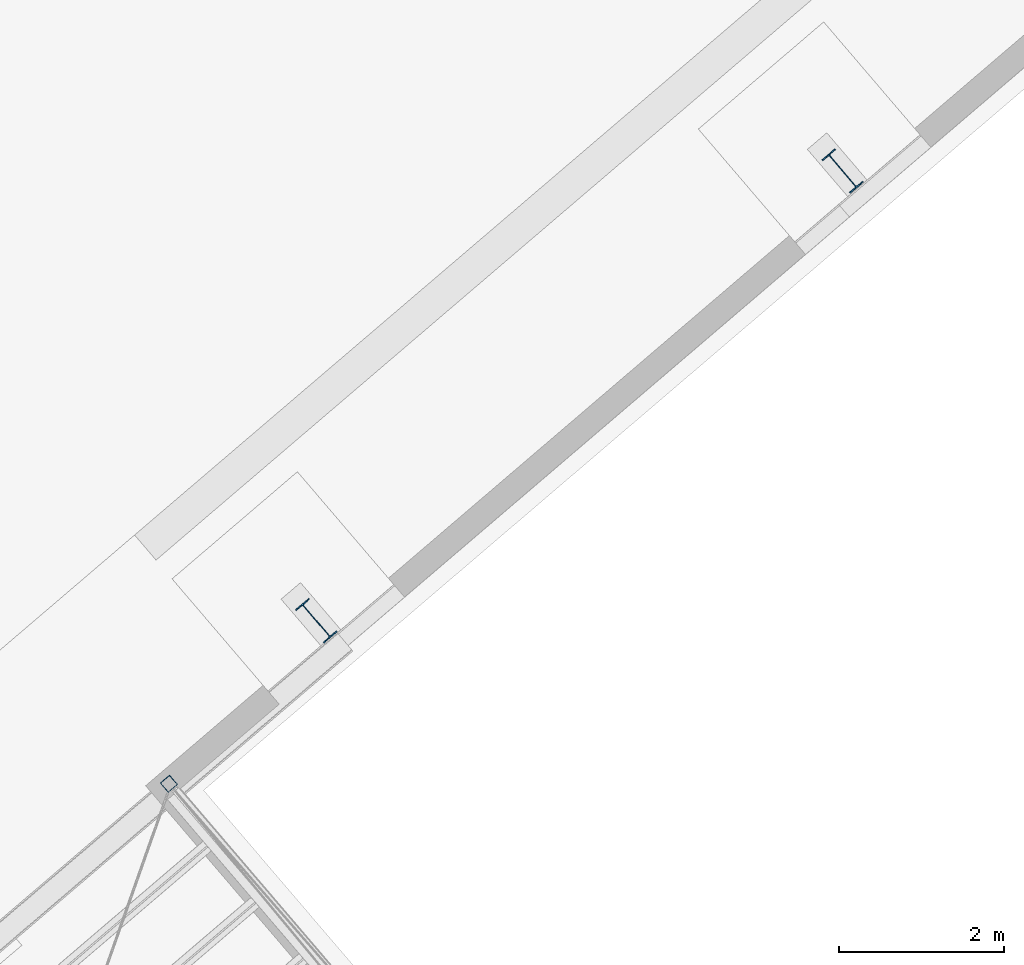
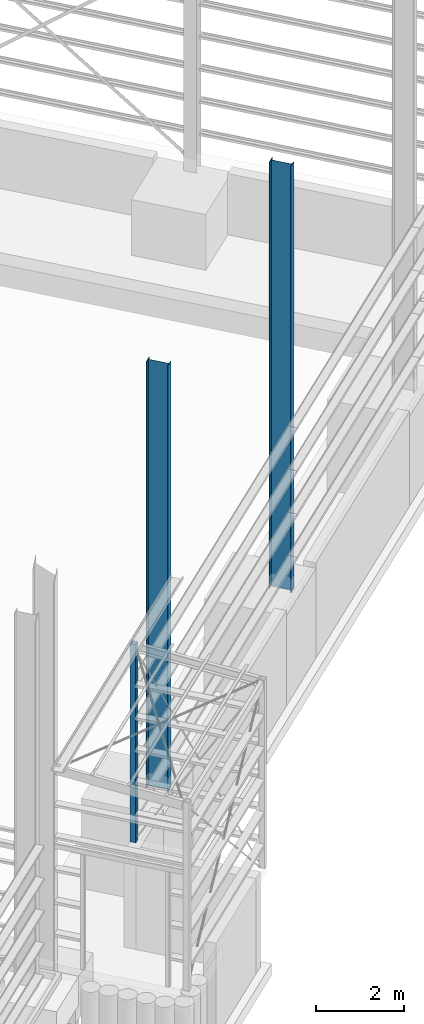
# One storey, part 7 of 41: 3 columns.
"""IFC2X3 building model written with IfcOpenShell, lengths in millimetres."""

import ifcopenshell
import ifcopenshell.guid

model = None  # the IFC model being written
_history = None  # IfcOwnerHistory: only IFC2X3 demands one
_inside = {}  # id of a spatial element -> (the spatial element, [elements in it])
_under = {}  # id of a project, library or spatial element -> (it, [spatial elements below it])
_declared = {}  # id of a project -> (the project, [libraries it declares])
_typed = {}  # id of a type object -> (the type object, [elements of that type])
_made_of = {}  # id of a material, layer set ... -> (it, [elements and type objects made of it])


def new_model(schema):
    """Start an empty IFC model of exactly this schema.

    Asked for "IFC4X3", IfcOpenShell would pick the latest addendum, in which some entities
    have other attributes; the version numbers below select the first issue.
    IFC2X3 requires an IfcOwnerHistory on every rooted entity: one is made here for all.
    """
    global model, _history
    if schema == "IFC4X3":
        model = ifcopenshell.file(schema_version=(4, 3, 0, 0))
    else:
        model = ifcopenshell.file(schema=schema)
    _inside.clear()
    _under.clear()
    _declared.clear()
    _typed.clear()
    _made_of.clear()
    _history = None
    if model.schema == "IFC2X3":
        org = make("IfcOrganization", Name="unknown")
        user = make(
            "IfcPersonAndOrganization",
            ThePerson=make("IfcPerson", FamilyName="unknown"),
            TheOrganization=org,
        )
        app = make(
            "IfcApplication",
            ApplicationDeveloper=org,
            Version="unknown",
            ApplicationFullName="unknown",
            ApplicationIdentifier="unknown",
        )
        _history = make(
            "IfcOwnerHistory",
            OwningUser=user,
            OwningApplication=app,
            ChangeAction="ADDED",
            CreationDate=0,
        )
    return model


def make(cls, **values):
    """One entity of the class cls with the attributes given. An attribute that is None is left unset."""
    return model.create_entity(
        cls, **{name: value for name, value in values.items() if value is not None}
    )


def entity(cls, *values):
    """Any entity or typed value of the class cls, its attributes in the order of the schema. None: left unset."""
    e = model.create_entity(cls)
    for i, value in enumerate(values):
        if value is not None:
            e[i] = value
    return e


def rooted(cls, **values):
    """An entity with a GlobalId (a new one), such as an element, a storey or a relation."""
    return make(cls, GlobalId=ifcopenshell.guid.new(), OwnerHistory=_history, **values)


def si_unit(unit_type, name, prefix=None):
    """IfcSIUnit, for example si_unit("LENGTHUNIT", "METRE", prefix="MILLI")."""
    return make("IfcSIUnit", UnitType=unit_type, Prefix=prefix, Name=name)


def converted_unit(unit_type, name, factor, base, dimensions=None, offset=None):
    """IfcConversionBasedUnit, such as the inch: factor (a typed value) times the base unit."""
    return make(
        "IfcConversionBasedUnit"
        if offset is None
        else "IfcConversionBasedUnitWithOffset",
        ConversionOffset=offset,
        Dimensions=None
        if dimensions is None
        else entity("IfcDimensionalExponents", *dimensions),
        UnitType=unit_type,
        Name=name,
        ConversionFactor=make(
            "IfcMeasureWithUnit", ValueComponent=factor, UnitComponent=base
        ),
    )


def derived_unit(unit_type, elements):
    """IfcDerivedUnit: a product of units, each with its exponent."""
    return make(
        "IfcDerivedUnit",
        Elements=[
            make("IfcDerivedUnitElement", Unit=unit, Exponent=power)
            for unit, power in elements
        ],
        UnitType=unit_type,
    )


def assignment(units):
    """IfcUnitAssignment: the units of a project."""
    return None if units is None else make("IfcUnitAssignment", Units=units)


def point(xyz):
    """IfcCartesianPoint."""
    return None if xyz is None else make("IfcCartesianPoint", Coordinates=xyz)


def direction(xyz):
    """IfcDirection."""
    return None if xyz is None else make("IfcDirection", DirectionRatios=xyz)


def frame(location, z_axis=None, x_axis=None):
    """IfcAxis2Placement3D, a coordinate frame: its origin and axes. An axis left out is left unset."""
    return make(
        "IfcAxis2Placement3D",
        Location=point(location),
        Axis=direction(z_axis),
        RefDirection=direction(x_axis),
    )


def frame_2d(location, x_axis=None):
    """IfcAxis2Placement2D, a coordinate frame in the plane: its origin and x axis."""
    return make(
        "IfcAxis2Placement2D", Location=point(location), RefDirection=direction(x_axis)
    )


def origin():
    """The frame at (0, 0, 0) with its axes left unset."""
    return frame((0.0, 0.0, 0.0))


def origin_2d():
    """The frame at (0, 0) in the plane with its x axis left unset."""
    return frame_2d((0.0, 0.0))


def place(relative_to, where):
    """IfcLocalPlacement: puts the frame where relative to a parent placement (None: the world)."""
    return make(
        "IfcLocalPlacement", PlacementRelTo=relative_to, RelativePlacement=where
    )


def context(
    kind, dimensions, precision=None, world=None, true_north=None, identifier=None
):
    """IfcGeometricRepresentationContext, for example the 3D "Model" context."""
    return make(
        "IfcGeometricRepresentationContext",
        ContextIdentifier=identifier,
        ContextType=kind,
        CoordinateSpaceDimension=dimensions,
        Precision=precision,
        WorldCoordinateSystem=world,
        TrueNorth=true_north,
    )


def subcontext(parent, identifier, kind, view, scale=None):
    """IfcGeometricRepresentationSubContext, for example "Body" below "Model"."""
    return make(
        "IfcGeometricRepresentationSubContext",
        ContextIdentifier=identifier,
        ContextType=kind,
        ParentContext=parent,
        TargetScale=scale,
        TargetView=view,
    )


def project(units=None, contexts=None):
    """IfcProject with its units and contexts."""
    return rooted(
        "IfcProject",
        Name="project",
        RepresentationContexts=contexts,
        UnitsInContext=assignment(units),
    )


def spatial(cls, under=None, at=None, **own):
    """A site, building, storey or space (cls), placed at a placement, below another one or the project."""
    s = rooted(cls, ObjectPlacement=at, **own)
    if under is not None:
        _under.setdefault(under.id(), (under, []))[1].append(s)
    return s


def polyline(points):
    """IfcPolyline through the points."""
    return make("IfcPolyline", Points=[point(p) for p in points])


def circle_curve(where, radius):
    """IfcCircle in the frame where."""
    return make("IfcCircle", Position=where, Radius=radius)


def parameter(value):
    """IfcParameterValue: where a trimmed curve begins or ends, as a parameter of its basis curve."""
    return model.create_entity("IfcParameterValue", value)


def trimmed(basis, trim1, trim2, sense, master):
    """IfcTrimmedCurve: the piece of a basis curve between two trims."""
    return make(
        "IfcTrimmedCurve",
        BasisCurve=basis,
        Trim1=trim1,
        Trim2=trim2,
        SenseAgreement=sense,
        MasterRepresentation=master,
    )


def segment(curve, same_sense, transition):
    """IfcCompositeCurveSegment."""
    return make(
        "IfcCompositeCurveSegment",
        Transition=transition,
        SameSense=same_sense,
        ParentCurve=curve,
    )


def composite_curve(segments, self_intersect=None):
    """IfcCompositeCurve: segments joined end to end."""
    return make("IfcCompositeCurve", Segments=segments, SelfIntersect=self_intersect)


def profile(cls, at=None, kind="AREA", **sizes):
    """A parametric profile (cls). Its sizes go by their IFC names, for example OverallWidth=200.0."""
    return make(cls, ProfileType=kind, Position=at, **sizes)


def i_section(**sizes):
    """IfcIShapeProfileDef."""
    return profile("IfcIShapeProfileDef", **sizes)


def outline(outer, holes=None, kind="AREA"):
    """IfcArbitraryClosedProfileDef: a profile drawn as a closed curve; with holes, ...WithVoids."""
    if holes is None:
        return make("IfcArbitraryClosedProfileDef", ProfileType=kind, OuterCurve=outer)
    return make(
        "IfcArbitraryProfileDefWithVoids",
        ProfileType=kind,
        OuterCurve=outer,
        InnerCurves=holes,
    )


def extrude(swept, where, along, depth):
    """IfcExtrudedAreaSolid: the profile swept, set in the frame where, extruded along a direction by depth."""
    return make(
        "IfcExtrudedAreaSolid",
        SweptArea=swept,
        Position=where,
        ExtrudedDirection=direction(along),
        Depth=depth,
    )


def shape(context_of_items, identifier, shape_type, items):
    """IfcShapeRepresentation: the items that make up one representation, for example the "Body"."""
    return make(
        "IfcShapeRepresentation",
        ContextOfItems=context_of_items,
        RepresentationIdentifier=identifier,
        RepresentationType=shape_type,
        Items=items,
    )


def source(mapping_origin, context_of_items, identifier, shape_type, items):
    """IfcRepresentationMap: a shape defined once, which mapped items show again and again."""
    return make(
        "IfcRepresentationMap",
        MappingOrigin=mapping_origin,
        MappedRepresentation=shape(context_of_items, identifier, shape_type, items),
    )


def transform(
    local_origin,
    x_axis=None,
    y_axis=None,
    z_axis=None,
    scale=None,
    scale2=None,
    scale3=None,
    uniform=True,
):
    """IfcCartesianTransformationOperator3D, or its non-uniform kind. x_axis, y_axis, z_axis: its Axis1, 2, 3."""
    if uniform:
        return make(
            "IfcCartesianTransformationOperator3D",
            Axis1=direction(x_axis),
            Axis2=direction(y_axis),
            LocalOrigin=point(local_origin),
            Scale=scale,
            Axis3=direction(z_axis),
        )
    return make(
        "IfcCartesianTransformationOperator3DnonUniform",
        Axis1=direction(x_axis),
        Axis2=direction(y_axis),
        LocalOrigin=point(local_origin),
        Scale=scale,
        Axis3=direction(z_axis),
        Scale2=scale2,
        Scale3=scale3,
    )


def mapped(mapping_source, mapping_target):
    """IfcMappedItem: shows the shape of a source again, moved by a transform."""
    return make(
        "IfcMappedItem", MappingSource=mapping_source, MappingTarget=mapping_target
    )


def material(Name=None, Category=None):
    """IfcMaterial."""
    return make("IfcMaterial", Name=Name, Category=Category)


def made_of(thing, what):
    """Note that an element or type object is made of a material, layer set ...; save() writes the relation."""
    if what is not None:
        _made_of.setdefault(what.id(), (what, []))[1].append(thing)
    return thing


def type_object(cls, material=None, **own):
    """A type object (cls), such as IfcWallType, which elements share."""
    return made_of(rooted(cls, **own), material)


def type_shapes(of_type, sources):
    """Give a type object the sources (RepresentationMaps) that its elements show as mapped items."""
    of_type.RepresentationMaps = sources


def element(
    cls,
    number,
    at=None,
    inside=None,
    cuts=None,
    type_object=None,
    material=None,
    context=None,
    identifier="Body",
    shape_type=None,
    held_by="IfcProductDefinitionShape",
    body=None,
    shapes=None,
    **own,
):
    """One element of the class cls, such as IfcWall. Its Tag is "e" and its number.

    at: its placement. inside: the storey or other place that contains it. cuts: it is an
    opening in that element (IfcRelVoidsElement). A single representation is given by context,
    identifier, shape_type and body (its items); several are given by shapes. held_by: the class
    of the entity that holds the representations. save() writes the other relations.
    """
    e = rooted(cls, Tag="e%d" % number, ObjectPlacement=at, **own)
    if body is not None:
        shapes = [shape(context, identifier, shape_type, body)]
    if shapes is not None:
        e.Representation = make(held_by, Representations=shapes)
    if inside is not None:
        _inside.setdefault(inside.id(), (inside, []))[1].append(e)
    if cuts is not None:
        rooted(
            "IfcRelVoidsElement", RelatingBuildingElement=cuts, RelatedOpeningElement=e
        )
    if type_object is not None:
        _typed.setdefault(type_object.id(), (type_object, []))[1].append(e)
    return made_of(e, material)


def aggregate(whole, parts):
    """IfcRelAggregates: a whole, such as a stair, and the parts it consists of."""
    return rooted("IfcRelAggregates", RelatingObject=whole, RelatedObjects=parts)


def save(model, path):
    """Write the relations noted so far, then the file.

    IfcRelAggregates (storeys below a building ...), IfcRelContainedInSpatialStructure (elements
    in a storey), IfcRelDefinesByType, IfcRelAssociatesMaterial and IfcRelDeclares: one each for
    every whole, place, type object, material and project.
    """
    for whole, parts in _under.values():
        aggregate(whole, parts)
    for where, things in _inside.values():
        rooted(
            "IfcRelContainedInSpatialStructure",
            RelatedElements=things,
            RelatingStructure=where,
        )
    for kind, things in _typed.values():
        rooted("IfcRelDefinesByType", RelatedObjects=things, RelatingType=kind)
    for what, things in _made_of.values():
        rooted("IfcRelAssociatesMaterial", RelatedObjects=things, RelatingMaterial=what)
    for by, libraries in _declared.values():
        rooted("IfcRelDeclares", RelatingContext=by, RelatedDefinitions=libraries)
    model.write(path)


model = new_model("IFC2X3")

# Units and contexts
model_context = context("Model", 3, precision=0.01, world=origin(), true_north=direction((6.123031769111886e-17, 1.0)))
body_context = subcontext(model_context, "Body", "Model", "MODEL_VIEW")
ifc_project = project(units=[si_unit("LENGTHUNIT", "METRE", prefix="MILLI"), si_unit("AREAUNIT", "SQUARE_METRE"), si_unit("VOLUMEUNIT", "CUBIC_METRE"), converted_unit("PLANEANGLEUNIT", "DEGREE", entity("IfcRatioMeasure", 0.017453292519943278), si_unit("PLANEANGLEUNIT", "RADIAN"), dimensions=[0, 0, 0, 0, 0, 0, 0]), si_unit("MASSUNIT", "GRAM", prefix="KILO"), derived_unit("MASSDENSITYUNIT", [(si_unit("MASSUNIT", "GRAM", prefix="KILO"), 1), (si_unit("LENGTHUNIT", "METRE"), -3)]), derived_unit("MOMENTOFINERTIAUNIT", [(si_unit("LENGTHUNIT", "METRE"), 4)]), si_unit("TIMEUNIT", "SECOND"), si_unit("FREQUENCYUNIT", "HERTZ"), si_unit("THERMODYNAMICTEMPERATUREUNIT", "DEGREE_CELSIUS"), derived_unit("THERMALTRANSMITTANCEUNIT", [(si_unit("MASSUNIT", "GRAM", prefix="KILO"), 1), (si_unit("THERMODYNAMICTEMPERATUREUNIT", "KELVIN"), -1), (si_unit("TIMEUNIT", "SECOND"), -3)]), derived_unit("VOLUMETRICFLOWRATEUNIT", [(si_unit("LENGTHUNIT", "METRE"), 3), (si_unit("TIMEUNIT", "SECOND"), -1)]), derived_unit("MASSFLOWRATEUNIT", [(si_unit("MASSUNIT", "GRAM", prefix="KILO"), 1), (si_unit("TIMEUNIT", "SECOND"), -1)]), derived_unit("ROTATIONALFREQUENCYUNIT", [(si_unit("TIMEUNIT", "SECOND"), -1)]), si_unit("ELECTRICCURRENTUNIT", "AMPERE"), si_unit("ELECTRICVOLTAGEUNIT", "VOLT"), si_unit("POWERUNIT", "WATT"), si_unit("FORCEUNIT", "NEWTON", prefix="KILO"), si_unit("ILLUMINANCEUNIT", "LUX"), si_unit("LUMINOUSFLUXUNIT", "LUMEN"), si_unit("LUMINOUSINTENSITYUNIT", "CANDELA"), derived_unit("USERDEFINED", [(si_unit("MASSUNIT", "GRAM", prefix="KILO"), -1), (si_unit("LENGTHUNIT", "METRE"), -2), (si_unit("TIMEUNIT", "SECOND"), 3), (si_unit("LUMINOUSFLUXUNIT", "LUMEN"), 1)]), derived_unit("SOUNDPOWERUNIT", [(si_unit("MASSUNIT", "GRAM", prefix="KILO"), 1), (si_unit("LENGTHUNIT", "METRE"), 2), (si_unit("TIMEUNIT", "SECOND"), -3)]), derived_unit("LINEARVELOCITYUNIT", [(si_unit("LENGTHUNIT", "METRE"), 1), (si_unit("TIMEUNIT", "SECOND"), -1)]), si_unit("PRESSUREUNIT", "PASCAL"), derived_unit("USERDEFINED", [(si_unit("LENGTHUNIT", "METRE"), -2), (si_unit("MASSUNIT", "GRAM", prefix="KILO"), 1), (si_unit("TIMEUNIT", "SECOND"), -2)]), derived_unit("LINEARFORCEUNIT", [(si_unit("MASSUNIT", "GRAM", prefix="KILO"), 1), (si_unit("LENGTHUNIT", "METRE"), 1), (si_unit("TIMEUNIT", "SECOND"), -2), (si_unit("LENGTHUNIT", "METRE"), -1)]), derived_unit("PLANARFORCEUNIT", [(si_unit("MASSUNIT", "GRAM", prefix="KILO"), 1), (si_unit("LENGTHUNIT", "METRE"), 1), (si_unit("TIMEUNIT", "SECOND"), -2), (si_unit("LENGTHUNIT", "METRE"), -2)])], contexts=[model_context])

# Site, building, storey
site_placement = place(None, frame((962.4174930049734, -6014.433753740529, 0.0), z_axis=(0.0, 0.0, 1.0), x_axis=(0.7601792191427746, 0.649713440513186, 0.0)))
site = spatial("IfcSite", under=ifc_project, at=site_placement, Name="Default", CompositionType="ELEMENT")
building_placement = place(site_placement, origin())
building = spatial("IfcBuilding", under=site, at=building_placement, CompositionType="ELEMENT")
storey_placement = place(building_placement, origin())
storey = spatial("IfcBuildingStorey", under=building, at=storey_placement, Name="Datum", CompositionType="ELEMENT", Elevation=0.0)

# Columns
ifc_material = material(Name="Metal - Steel - 300 MPa")
column_type_1 = type_object("IfcColumnType", Name="ADSK_AU_SHS-Square Hollow Sections-Column (AS 1163_C350):150x150x5.0SHS", PredefinedType="COLUMN", material=ifc_material)
shared_shape = source(origin(), body_context, "Body", "SweptSolid", [
    extrude(outline(composite_curve([segment(polyline([(-62.50000000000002, -75.0), (62.50000000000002, -75.0)]), True, "CONTINUOUS"), segment(trimmed(circle_curve(frame_2d((62.49999999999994, -62.49999999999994), x_axis=(-1.0, 0.0)), 12.50000000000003), [parameter(90.00000000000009)], [parameter(180.00000000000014)], True, "PARAMETER"), True, "CONTINUOUS"), segment(polyline([(75.0, -62.49999999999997), (75.0, 62.499999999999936)]), True, "CONTINUOUS"), segment(trimmed(circle_curve(frame_2d((62.49999999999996, 62.4999999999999), x_axis=(-1.0, 0.0)), 12.500000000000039), [parameter(180.00000000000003)], [parameter(269.99999999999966)], True, "PARAMETER"), True, "CONTINUOUS"), segment(polyline([(62.499999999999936, 75.0), (-62.50000000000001, 75.0)]), True, "CONTINUOUS"), segment(trimmed(circle_curve(frame_2d((-62.5, 62.49999999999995), x_axis=(-1.0, 0.0)), 12.500000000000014), [parameter(269.99999999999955)], [parameter(359.9999999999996)], True, "PARAMETER"), True, "CONTINUOUS"), segment(polyline([(-75.0, 62.49999999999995), (-75.0, -62.49999999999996)]), True, "CONTINUOUS"), segment(trimmed(circle_curve(frame_2d((-62.500000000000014, -62.49999999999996), x_axis=(-1.0, 0.0)), 12.500000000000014), [parameter(359.9999999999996)], [parameter(89.99999999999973)], True, "PARAMETER"), True, "CONTINUOUS")], self_intersect=False), holes=[composite_curve([segment(trimmed(circle_curve(frame_2d((-62.500000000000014, -62.49999999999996), x_axis=(-1.0, 0.0)), 7.500000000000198), [parameter(359.9999999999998)], [parameter(90.00000000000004)], True, "PARAMETER"), False, "CONTINUOUS"), segment(polyline([(-70.0, -62.49999999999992), (-70.0, 62.500000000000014)]), True, "CONTINUOUS"), segment(trimmed(circle_curve(frame_2d((-62.5, 62.5), x_axis=(-1.0, 0.0)), 7.499999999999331), [parameter(269.99999999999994)], [parameter(359.9999999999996)], True, "PARAMETER"), False, "CONTINUOUS"), segment(polyline([(-62.500000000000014, 70.0), (62.49999999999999, 70.0)]), True, "CONTINUOUS"), segment(trimmed(circle_curve(frame_2d((62.49999999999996, 62.499999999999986), x_axis=(-1.0, 0.0)), 7.499999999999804), [parameter(180.00000000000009)], [parameter(270.00000000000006)], True, "PARAMETER"), False, "CONTINUOUS"), segment(polyline([(70.0, 62.50000000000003), (70.0, -62.49999999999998)]), True, "CONTINUOUS"), segment(trimmed(circle_curve(frame_2d((62.49999999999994, -62.49999999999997), x_axis=(-1.0, 0.0)), 7.500000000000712), [parameter(90.0000000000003)], [parameter(180.00000000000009)], True, "PARAMETER"), False, "CONTINUOUS"), segment(polyline([(62.49999999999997, -70.0), (-62.50000000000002, -70.0)]), True, "CONTINUOUS")], self_intersect=False)]), frame((0.0, 0.0, 0.0), z_axis=(0.0, 0.0, 1.0), x_axis=(-1.0, 0.0, 0.0)), (0.0, 0.0, 1.0), 5505.0),
])
type_shapes(column_type_1, [shared_shape])
column_placement = place(building_placement, frame((159693.96020470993, -26187.82808212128, 0.0)))
element("IfcColumn", 1, at=column_placement, inside=storey, type_object=column_type_1, material=ifc_material, Name="ADSK_AU_SHS-Square Hollow Sections-Column (AS 1163_C350):150x150x5.0SHS", ObjectType="ADSK_AU_SHS-Square Hollow Sections-Column (AS 1163_C350):150x150x5.0SHS", context=body_context, shape_type="MappedRepresentation", body=[
    mapped(shared_shape, transform((0.0, 0.0, 0.0), scale=1.0)),
])
column_type_2 = type_object("IfcColumnType", Name="ADSK_AU_UB-Universal Beams-Column (AS 3679_1):530UB92.4", PredefinedType="COLUMN", material=ifc_material)
for number, where in (
    (2, (162338.96020471, -25846.928082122, 11505.0)),
    (3, (170738.96020471, -25846.928082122, 11505.0)),
):
    element("IfcColumn", number, at=place(building_placement, frame(where)), inside=storey, type_object=column_type_2, material=ifc_material, Name="ADSK_AU_UB-Universal Beams-Column (AS 3679_1):530UB92.4", ObjectType="530UB92.4", context=model_context, shape_type="SweptSolid", body=[
        extrude(i_section(OverallWidth=209.0, OverallDepth=533.0, WebThickness=10.2, FlangeThickness=15.6, FilletRadius=14.0, at=origin_2d()), origin(), (0.0, 0.0, -1.0), 11855.0),
    ])

save(model, "model.ifc")
